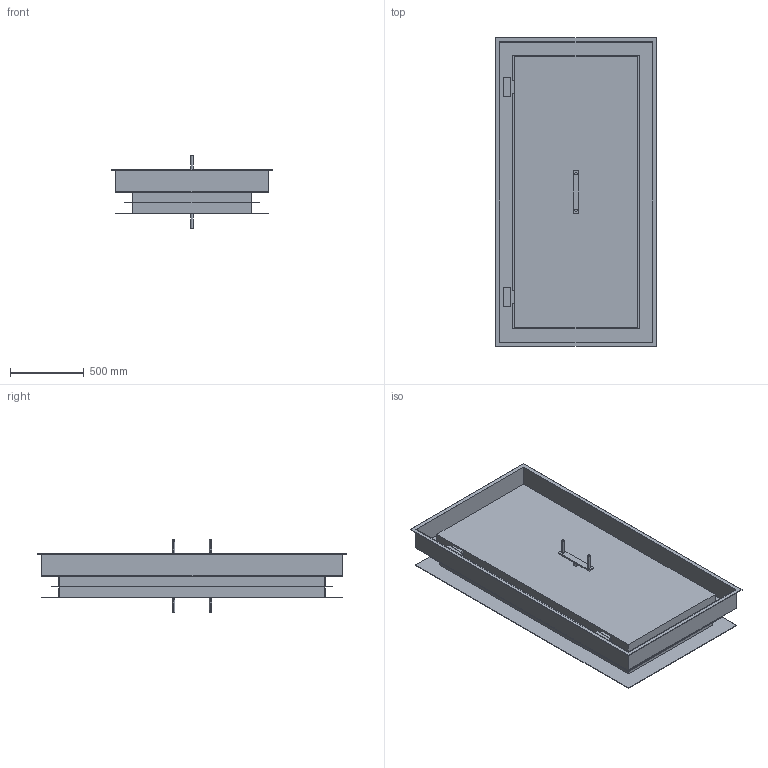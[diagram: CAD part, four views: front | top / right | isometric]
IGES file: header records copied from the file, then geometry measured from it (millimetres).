
Start section:  PTC IGES file: 52057226.igs
Global section: file name: 52057226.igs; native system: Creo Parametric by PTC Inc.; preprocessor: 2022162; author: ka; organization: Unknown; date: 20221104.105542; units: millimetre
Bounding box: 1090 x 2090 x 495 mm (x, y, z)
Surface area: 10694381.1 mm2 (no closed solid volume)
Topology: 0 solids, 0 shells, 99 faces, 464 edges, 464 vertices
Faces by surface type: bspline 87, revolution 12
